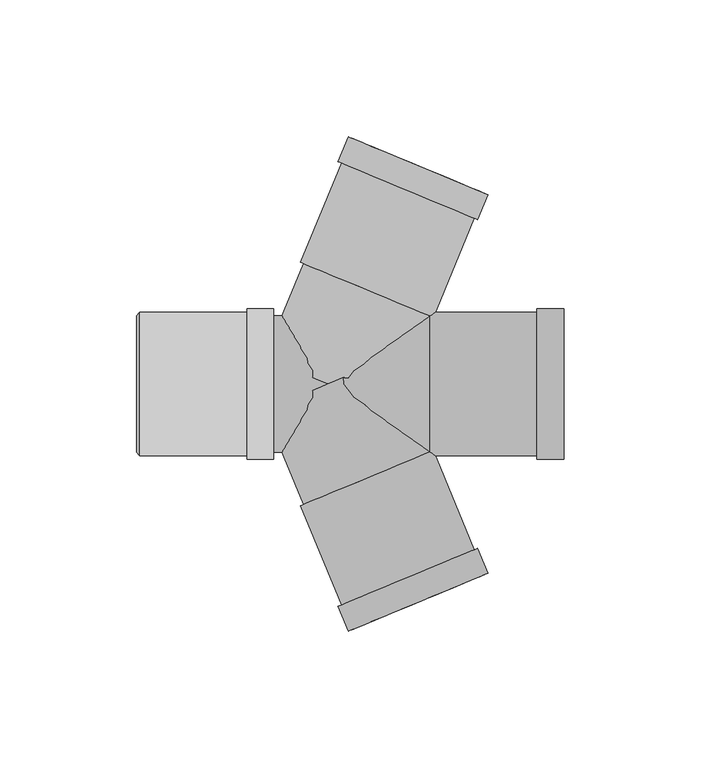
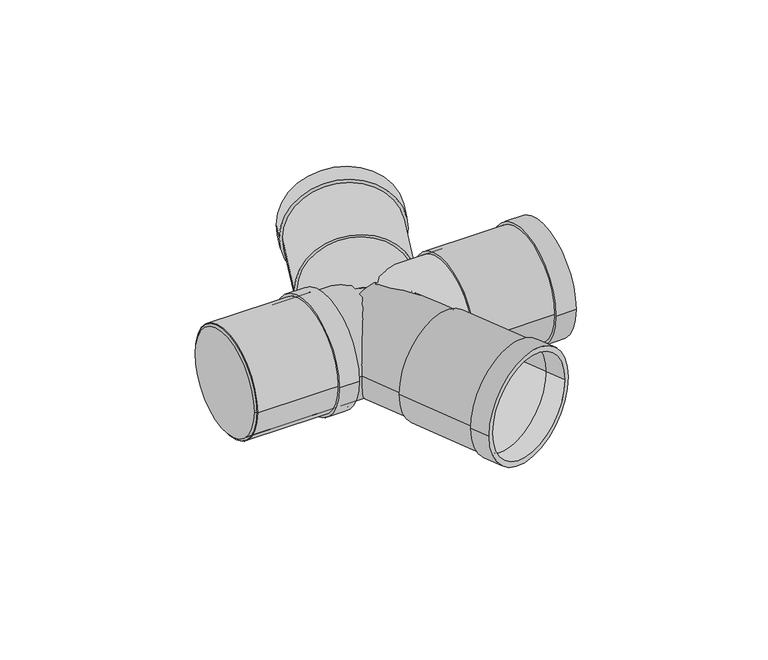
"""IFC4 building model written with IfcOpenShell, lengths in millimetres: pipe fitting geometry, Superdrain HTDA-Double Branch : Superdrain HTDA-Double Branch."""

from ifc_helpers import new_model, si_unit, point, frame, origin, origin_2d, place, context, project, spatial, polyline, circle_curve, trimmed, segment, composite_curve, outline, extrude, source, transform, mapped, element, save
from ifc_brep_helpers import plane_surface, revolved_surface, advanced_brep


def pipe_fitting_b9e7a57b(model_context):
    return source(origin(), model_context, "Body", "SolidModel", [
        extrude(outline(composite_curve([segment(trimmed(circle_curve(origin_2d(), 26.25), [point((26.25, 0.0))], [point((-26.25, 0.0))], False, "CARTESIAN"), True, "CONTINUOUS"), segment(trimmed(circle_curve(origin_2d(), 26.25), [point((-26.25, 0.0))], [point((26.25, 0.0))], False, "CARTESIAN"), True, "CONTINUOUS")], self_intersect=False), holes=[composite_curve([segment(trimmed(circle_curve(origin_2d(), 25.0), [point((25.0, 0.0))], [point((-25.0, 0.0))], True, "CARTESIAN"), True, "CONTINUOUS"), segment(trimmed(circle_curve(origin_2d(), 25.0), [point((-25.0, 0.0))], [point((25.0, 0.0))], True, "CARTESIAN"), True, "CONTINUOUS")], self_intersect=False)]), frame((-68.8, 0.0, 0.0), z_axis=(1.0, 0.0, 0.0), x_axis=(0.0, 1.0, 0.0)), (0.0, 0.0, 1.0), 49.0),
        extrude(outline(composite_curve([segment(trimmed(circle_curve(origin_2d(), 27.5625), [point((27.5625, 0.0))], [point((-27.5625, 0.0))], False, "CARTESIAN"), True, "CONTINUOUS"), segment(trimmed(circle_curve(origin_2d(), 27.5625), [point((-27.5625, 0.0))], [point((27.5625, 0.0))], False, "CARTESIAN"), True, "CONTINUOUS")], self_intersect=False), holes=[composite_curve([segment(trimmed(circle_curve(origin_2d(), 25.0), [point((25.0, 0.0))], [point((-25.0, 0.0))], True, "CARTESIAN"), True, "CONTINUOUS"), segment(trimmed(circle_curve(origin_2d(), 25.0), [point((-25.0, 0.0))], [point((25.0, 0.0))], True, "CARTESIAN"), True, "CONTINUOUS")], self_intersect=False)]), frame((-29.6, 0.0, 0.0), z_axis=(1.0, 0.0, 0.0), x_axis=(0.0, 1.0, 0.0)), (0.0, 0.0, 1.0), 9.8),
        advanced_brep(
        [(-69.8, 25.0, 0.0), (-69.8, -25.0, 0.0), (-68.8, 26.25, 0.0), (-68.8, -26.25, 0.0)],
        [
            (0, 1, circle_curve(frame((-69.8, 0.0, 0.0), z_axis=(-1.0, 0.0, 0.0), x_axis=(0.0, 1.0, 0.0)), 25.0)),
            (1, 0, circle_curve(frame((-69.8, 0.0, 0.0), z_axis=(-1.0, 0.0, 0.0), x_axis=(0.0, -1.0, 0.0)), 25.0)),
            (2, 3, circle_curve(frame((-68.8, 0.0, 0.0), z_axis=(1.0, 0.0, 0.0), x_axis=(0.0, -1.0, 0.0)), 26.25)),
            (3, 2, circle_curve(frame((-68.8, 0.0, 0.0), z_axis=(1.0, 0.0, 0.0), x_axis=(0.0, 1.0, 0.0)), 26.25)),
            (3, 1),
            (0, 2),
        ],
        [
            plane_surface(frame((-69.8, 0.0, 0.0), z_axis=(-1.0, 0.0, 0.0), x_axis=(0.0, 0.0, -1.0))),
            plane_surface(frame((-68.8, 0.0, 0.0), z_axis=(1.0, 0.0, 0.0), x_axis=(0.0, 0.0, -1.0))),
            revolved_surface(polyline([(-69.8, 25.0, 0.0), (-68.8, 26.25, 0.0)]), (-89.8, 0.0, 0.0), (1.0, 0.0, 0.0)),
            revolved_surface(polyline([(-69.8, -25.0, 0.0), (-68.8, -26.25, 0.0)]), (-89.8, 0.0, 0.0), (1.0, 0.0, 0.0)),
        ],
        [
            (0, [[1, 2]]),
            (1, [[3, 4]]),
            (2, [[-4, 5, -1, 6]]),
            (3, [[-3, -6, -2, -5]]),
        ],
    ),
        extrude(outline(composite_curve([segment(trimmed(circle_curve(origin_2d(), 27.5625), [point((0.0, -27.5625))], [point((0.0, 27.5625))], False, "CARTESIAN"), True, "CONTINUOUS"), segment(trimmed(circle_curve(origin_2d(), 27.5625), [point((0.0, 27.5625))], [point((0.0, -27.5625))], False, "CARTESIAN"), True, "CONTINUOUS")], self_intersect=False), holes=[composite_curve([segment(trimmed(circle_curve(origin_2d(), 25.0), [point((0.0, -25.0))], [point((0.0, 25.0))], True, "CARTESIAN"), True, "CONTINUOUS"), segment(trimmed(circle_curve(origin_2d(), 25.0), [point((0.0, 25.0))], [point((0.0, -25.0))], True, "CARTESIAN"), True, "CONTINUOUS")], self_intersect=False)]), frame((32.9873119, -79.6384157, 0.0), z_axis=(-0.3826834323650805, 0.9238795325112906, 0.0), x_axis=(0.0, 0.0, 1.0)), (0.0, 0.0, 1.0), 9.8),
        extrude(outline(composite_curve([segment(trimmed(circle_curve(origin_2d(), 26.25), [point((0.0, -26.2500001))], [point((0.0, 26.25))], False, "CARTESIAN"), True, "CONTINUOUS"), segment(trimmed(circle_curve(origin_2d(), 26.25), [point((0.0, 26.25))], [point((0.0, -26.2500001))], False, "CARTESIAN"), True, "CONTINUOUS")], self_intersect=False), holes=[composite_curve([segment(trimmed(circle_curve(origin_2d(), 25.0), [point((0.0, -25.0))], [point((0.0, 25.0))], True, "CARTESIAN"), True, "CONTINUOUS"), segment(trimmed(circle_curve(origin_2d(), 25.0), [point((0.0, 25.0))], [point((0.0, -25.0))], True, "CARTESIAN"), True, "CONTINUOUS")], self_intersect=False)]), frame((32.9873119, -79.6384157, 0.0), z_axis=(-0.3826834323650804, 0.9238795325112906, 0.0), x_axis=(0.0, 0.0, 1.0)), (0.0, 0.0, 1.0), 49.0),
        extrude(outline(composite_curve([segment(trimmed(circle_curve(origin_2d(), 25.0), [point((0.0, -25.0))], [point((0.0, 25.0))], False, "CARTESIAN"), True, "CONTINUOUS"), segment(trimmed(circle_curve(origin_2d(), 25.0), [point((0.0, 25.0))], [point((0.0, -25.0))], False, "CARTESIAN"), True, "CONTINUOUS")], self_intersect=False)), frame((14.2358237, -34.3683186, 0.0), z_axis=(-0.38268343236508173, 0.9238795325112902, 0.0), x_axis=(0.0, 0.0, 1.0)), (0.0, 0.0, 1.0), 37.2),
        extrude(outline(composite_curve([segment(trimmed(circle_curve(origin_2d(), 27.5625), [point((0.0, 27.5625))], [point((0.0, -27.5625))], False, "CARTESIAN"), True, "CONTINUOUS"), segment(trimmed(circle_curve(origin_2d(), 27.5625), [point((0.0, -27.5625))], [point((0.0, 27.5625))], False, "CARTESIAN"), True, "CONTINUOUS")], self_intersect=False), holes=[composite_curve([segment(trimmed(circle_curve(origin_2d(), 25.0), [point((0.0, 25.0))], [point((0.0, -25.0))], True, "CARTESIAN"), True, "CONTINUOUS"), segment(trimmed(circle_curve(origin_2d(), 25.0), [point((0.0, -25.0))], [point((0.0, 25.0))], True, "CARTESIAN"), True, "CONTINUOUS")], self_intersect=False)]), frame((29.2370142, 70.5843963, 0.0), z_axis=(0.38268343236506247, 0.9238795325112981, 0.0), x_axis=(0.0, 0.0, 1.0)), (0.0, 0.0, 1.0), 9.8),
        extrude(outline(composite_curve([segment(trimmed(circle_curve(origin_2d(), 26.25), [point((0.0, 26.25))], [point((0.0, -26.25))], False, "CARTESIAN"), True, "CONTINUOUS"), segment(trimmed(circle_curve(origin_2d(), 26.25), [point((0.0, -26.25))], [point((0.0, 26.25))], False, "CARTESIAN"), True, "CONTINUOUS")], self_intersect=False), holes=[composite_curve([segment(trimmed(circle_curve(origin_2d(), 25.0), [point((0.0, 25.0))], [point((0.0, -25.0))], True, "CARTESIAN"), True, "CONTINUOUS"), segment(trimmed(circle_curve(origin_2d(), 25.0), [point((0.0, -25.0))], [point((0.0, 25.0))], True, "CARTESIAN"), True, "CONTINUOUS")], self_intersect=False)]), frame((14.2358237, 34.3683186, 0.0), z_axis=(0.38268343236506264, 0.9238795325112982, 0.0), x_axis=(0.0, 0.0, 1.0)), (0.0, 0.0, 1.0), 49.0),
        extrude(outline(composite_curve([segment(trimmed(circle_curve(origin_2d(), 25.0), [point((0.0, 25.0))], [point((0.0, -25.0))], False, "CARTESIAN"), True, "CONTINUOUS"), segment(trimmed(circle_curve(origin_2d(), 25.0), [point((0.0, -25.0))], [point((0.0, 25.0))], False, "CARTESIAN"), True, "CONTINUOUS")], self_intersect=False)), frame((0.0, 0.0, 0.0), z_axis=(0.38268343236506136, 0.9238795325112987, 0.0), x_axis=(0.0, 0.0, 1.0)), (0.0, 0.0, 1.0), 37.2),
        extrude(outline(composite_curve([segment(trimmed(circle_curve(origin_2d(), 27.5625), [point((-27.5625, 0.0))], [point((27.5625, 0.0))], False, "CARTESIAN"), True, "CONTINUOUS"), segment(trimmed(circle_curve(origin_2d(), 27.5625), [point((27.5625, 0.0))], [point((-27.5625, 0.0))], False, "CARTESIAN"), True, "CONTINUOUS")], self_intersect=False), holes=[composite_curve([segment(trimmed(circle_curve(origin_2d(), 26.25), [point((-26.25, 0.0))], [point((26.25, 0.0))], True, "CARTESIAN"), True, "CONTINUOUS"), segment(trimmed(circle_curve(origin_2d(), 26.25), [point((26.25, 0.0))], [point((-26.25, 0.0))], True, "CARTESIAN"), True, "CONTINUOUS")], self_intersect=False)]), frame((76.4, 0.0, 0.0), z_axis=(1.0, 0.0, 0.0), x_axis=(0.0, 1.0, 0.0)), (0.0, 0.0, 1.0), 9.8),
        extrude(outline(composite_curve([segment(trimmed(circle_curve(origin_2d(), 26.25), [point((-26.25, 0.0))], [point((26.25, 0.0))], False, "CARTESIAN"), True, "CONTINUOUS"), segment(trimmed(circle_curve(origin_2d(), 26.25), [point((26.25, 0.0))], [point((-26.25, 0.0))], False, "CARTESIAN"), True, "CONTINUOUS")], self_intersect=False), holes=[composite_curve([segment(trimmed(circle_curve(origin_2d(), 25.0), [point((-25.0, 0.0))], [point((25.0, 0.0))], True, "CARTESIAN"), True, "CONTINUOUS"), segment(trimmed(circle_curve(origin_2d(), 25.0), [point((25.0, 0.0))], [point((-25.0, 0.0))], True, "CARTESIAN"), True, "CONTINUOUS")], self_intersect=False)]), frame((37.2, 0.0, 0.0), z_axis=(1.0, 0.0, 0.0), x_axis=(0.0, 1.0, 0.0)), (0.0, 0.0, 1.0), 49.0),
        extrude(outline(composite_curve([segment(trimmed(circle_curve(origin_2d(), 25.0), [point((-25.0, 0.0))], [point((25.0, 0.0))], False, "CARTESIAN"), True, "CONTINUOUS"), segment(trimmed(circle_curve(origin_2d(), 25.0), [point((25.0, 0.0))], [point((-25.0, 0.0))], False, "CARTESIAN"), True, "CONTINUOUS")], self_intersect=False)), frame((0.0, 0.0, 0.0), z_axis=(1.0, 0.0, 0.0), x_axis=(0.0, 1.0, 0.0)), (0.0, 0.0, 1.0), 37.2),
        extrude(outline(composite_curve([segment(trimmed(circle_curve(origin_2d(), 25.0), [point((-25.0, 0.0))], [point((25.0, 0.0))], False, "CARTESIAN"), True, "CONTINUOUS"), segment(trimmed(circle_curve(origin_2d(), 25.0), [point((25.0, 0.0))], [point((-25.0, 0.0))], False, "CARTESIAN"), True, "CONTINUOUS")], self_intersect=False)), frame((-68.8, 0.0, 0.0), z_axis=(1.0, 0.0, 0.0), x_axis=(0.0, 1.0, 0.0)), (0.0, 0.0, 1.0), 68.8),
    ])


if __name__ == "__main__":
    model = new_model("IFC4")
    model_context = context("Model", 3, world=origin())
    ifc_project = project(units=[si_unit("LENGTHUNIT", "METRE", prefix="MILLI")], contexts=[model_context])
    site = spatial("IfcSite", under=ifc_project)
    building = spatial("IfcBuilding", under=site)
    placement = place(None, origin())
    pipe_fitting_shape = pipe_fitting_b9e7a57b(model_context)
    element("IfcPipeFitting", 1, ObjectType="Superdrain HTDA-Double Branch : Superdrain HTDA-Double Branch", at=placement, inside=building, context=model_context, shape_type="MappedRepresentation", body=[
        mapped(pipe_fitting_shape, transform((0.0, 0.0, 0.0), x_axis=(1.0, 0.0, 0.0), y_axis=(0.0, 1.0, 0.0), z_axis=(0.0, 0.0, 1.0))),
    ])
    save(model, "model.ifc")
